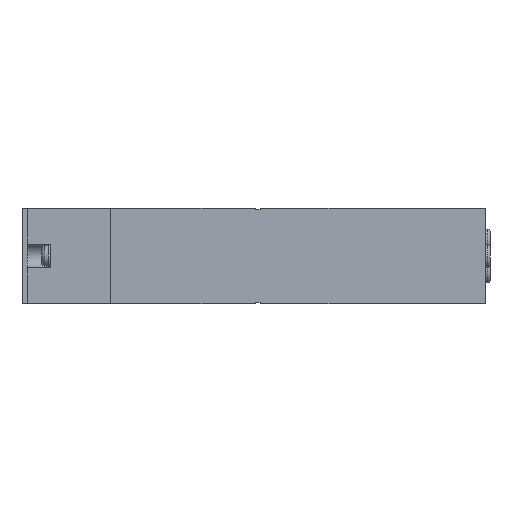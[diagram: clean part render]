
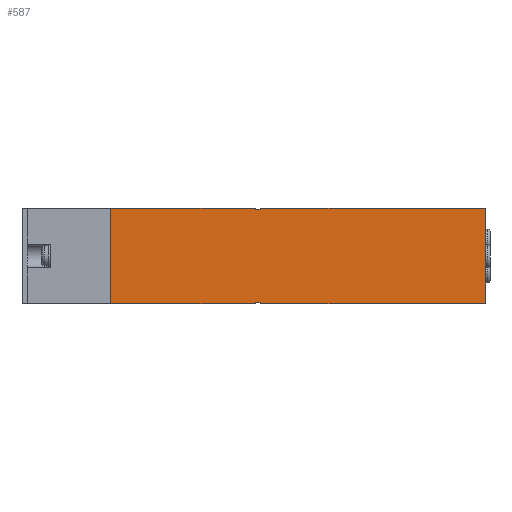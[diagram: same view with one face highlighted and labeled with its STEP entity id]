
A CAD part, front view. The second image highlights one B-rep face of the part: STEP entity #587.
In plain terms, the highlighted planar face has unit normal (0, -1, 0).
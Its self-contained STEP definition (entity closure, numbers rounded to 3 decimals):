
#587=ADVANCED_FACE('',(#1656),#1657,.F.);
#1656=FACE_OUTER_BOUND('',#3405,.T.);
#1657=PLANE('',#3406);
#3405=EDGE_LOOP('',(#6789,#6790,#6791,#6792,#6793,#6794,#6795,#6796,#6797,#6798,#6799,#6800,#6801,#6802,#6803,#6804,#6805,#6806,#6807,#6808,#6809,#6810,#6811,#6812));
#3406=AXIS2_PLACEMENT_3D('',#6813,#6814,#6815);
#6789=ORIENTED_EDGE('',*,*,#11688,.F.);
#6790=ORIENTED_EDGE('',*,*,#11689,.T.);
#6791=ORIENTED_EDGE('',*,*,#11690,.T.);
#6792=ORIENTED_EDGE('',*,*,#11691,.F.);
#6793=ORIENTED_EDGE('',*,*,#11692,.F.);
#6794=ORIENTED_EDGE('',*,*,#11693,.T.);
#6795=ORIENTED_EDGE('',*,*,#11639,.F.);
#6796=ORIENTED_EDGE('',*,*,#11694,.T.);
#6797=ORIENTED_EDGE('',*,*,#11695,.F.);
#6798=ORIENTED_EDGE('',*,*,#11696,.T.);
#6799=ORIENTED_EDGE('',*,*,#11697,.T.);
#6800=ORIENTED_EDGE('',*,*,#11698,.T.);
#6801=ORIENTED_EDGE('',*,*,#11699,.T.);
#6802=ORIENTED_EDGE('',*,*,#11700,.F.);
#6803=ORIENTED_EDGE('',*,*,#11701,.T.);
#6804=ORIENTED_EDGE('',*,*,#11702,.F.);
#6805=ORIENTED_EDGE('',*,*,#11703,.T.);
#6806=ORIENTED_EDGE('',*,*,#11704,.T.);
#6807=ORIENTED_EDGE('',*,*,#11705,.T.);
#6808=ORIENTED_EDGE('',*,*,#11706,.T.);
#6809=ORIENTED_EDGE('',*,*,#11707,.T.);
#6810=ORIENTED_EDGE('',*,*,#11708,.F.);
#6811=ORIENTED_EDGE('',*,*,#11709,.F.);
#6812=ORIENTED_EDGE('',*,*,#11649,.F.);
#6813=CARTESIAN_POINT('',(18.6,0.0,10.0));
#6814=DIRECTION('',(-0.0,1.0,0.0));
#6815=DIRECTION('',(1.0,0.0,0.0));
#11639=EDGE_CURVE('',#14245,#14241,#14247,.T.);
#11649=EDGE_CURVE('',#14264,#14267,#14268,.T.);
#11688=EDGE_CURVE('',#14337,#14264,#14338,.T.);
#11689=EDGE_CURVE('',#14337,#14339,#14340,.T.);
#11690=EDGE_CURVE('',#14339,#14341,#14342,.T.);
#11691=EDGE_CURVE('',#14343,#14341,#14344,.T.);
#11692=EDGE_CURVE('',#14345,#14343,#14346,.T.);
#11693=EDGE_CURVE('',#14345,#14241,#14347,.T.);
#11694=EDGE_CURVE('',#14245,#14348,#14349,.T.);
#11695=EDGE_CURVE('',#14350,#14348,#14351,.T.);
#11696=EDGE_CURVE('',#14350,#14352,#14353,.T.);
#11697=EDGE_CURVE('',#14352,#14354,#14355,.T.);
#11698=EDGE_CURVE('',#14354,#14356,#14357,.T.);
#11699=EDGE_CURVE('',#14356,#14358,#14359,.T.);
#11700=EDGE_CURVE('',#14360,#14358,#14361,.T.);
#11701=EDGE_CURVE('',#14360,#14362,#14363,.T.);
#11702=EDGE_CURVE('',#14364,#14362,#14365,.T.);
#11703=EDGE_CURVE('',#14364,#14366,#14367,.T.);
#11704=EDGE_CURVE('',#14366,#14368,#14369,.T.);
#11705=EDGE_CURVE('',#14368,#14370,#14371,.T.);
#11706=EDGE_CURVE('',#14370,#14372,#14373,.T.);
#11707=EDGE_CURVE('',#14372,#14374,#14375,.T.);
#11708=EDGE_CURVE('',#14376,#14374,#14377,.T.);
#11709=EDGE_CURVE('',#14267,#14376,#14378,.T.);
#14241=VERTEX_POINT('',#18313);
#14245=VERTEX_POINT('',#18319);
#14247=LINE('',#18322,#18323);
#14264=VERTEX_POINT('',#18348);
#14267=VERTEX_POINT('',#18352);
#14268=LINE('',#18353,#18354);
#14337=VERTEX_POINT('',#18457);
#14338=LINE('',#18458,#18459);
#14339=VERTEX_POINT('',#18460);
#14340=LINE('',#18461,#18462);
#14341=VERTEX_POINT('',#18463);
#14342=LINE('',#18464,#18465);
#14343=VERTEX_POINT('',#18466);
#14344=LINE('',#18467,#18468);
#14345=VERTEX_POINT('',#18469);
#14346=LINE('',#18470,#18471);
#14347=LINE('',#18472,#18473);
#14348=VERTEX_POINT('',#18474);
#14349=LINE('',#18475,#18476);
#14350=VERTEX_POINT('',#18477);
#14351=LINE('',#18478,#18479);
#14352=VERTEX_POINT('',#18480);
#14353=LINE('',#18481,#18482);
#14354=VERTEX_POINT('',#18483);
#14355=LINE('',#18484,#18485);
#14356=VERTEX_POINT('',#18486);
#14357=LINE('',#18487,#18488);
#14358=VERTEX_POINT('',#18489);
#14359=LINE('',#18490,#18491);
#14360=VERTEX_POINT('',#18492);
#14361=LINE('',#18493,#18494);
#14362=VERTEX_POINT('',#18495);
#14363=LINE('',#18496,#18497);
#14364=VERTEX_POINT('',#18498);
#14365=LINE('',#18499,#18500);
#14366=VERTEX_POINT('',#18501);
#14367=LINE('',#18502,#18503);
#14368=VERTEX_POINT('',#18504);
#14369=LINE('',#18505,#18506);
#14370=VERTEX_POINT('',#18507);
#14371=LINE('',#18508,#18509);
#14372=VERTEX_POINT('',#18510);
#14373=LINE('',#18511,#18512);
#14374=VERTEX_POINT('',#18513);
#14375=LINE('',#18514,#18515);
#14376=VERTEX_POINT('',#18516);
#14377=LINE('',#18517,#18518);
#14378=LINE('',#18519,#18520);
#18313=CARTESIAN_POINT('',(44.1,0.0,10.0));
#18319=CARTESIAN_POINT('',(35.1,0.0,10.0));
#18322=CARTESIAN_POINT('',(18.6,0.0,10.0));
#18323=VECTOR('',#22514,1.0);
#18348=CARTESIAN_POINT('',(55.1,0.0,9.9));
#18352=CARTESIAN_POINT('',(55.1,0.0,10.0));
#18353=CARTESIAN_POINT('',(55.1,0.0,9.9));
#18354=VECTOR('',#22524,1.0);
#18457=CARTESIAN_POINT('',(50.1,0.0,9.9));
#18458=CARTESIAN_POINT('',(44.1,0.0,9.9));
#18459=VECTOR('',#22571,1.0);
#18460=CARTESIAN_POINT('',(50.1,0.0,9.8));
#18461=CARTESIAN_POINT('',(50.1,0.0,10.0));
#18462=VECTOR('',#22572,1.0);
#18463=CARTESIAN_POINT('',(49.1,0.0,9.8));
#18464=CARTESIAN_POINT('',(18.6,0.0,9.8));
#18465=VECTOR('',#22573,1.0);
#18466=CARTESIAN_POINT('',(49.1,0.0,9.9));
#18467=CARTESIAN_POINT('',(49.1,0.0,10.0));
#18468=VECTOR('',#22574,1.0);
#18469=CARTESIAN_POINT('',(44.1,0.0,9.9));
#18470=CARTESIAN_POINT('',(44.1,0.0,9.9));
#18471=VECTOR('',#22575,1.0);
#18472=CARTESIAN_POINT('',(44.1,0.0,9.9));
#18473=VECTOR('',#22576,1.0);
#18474=CARTESIAN_POINT('',(35.1,0.0,9.9));
#18475=CARTESIAN_POINT('',(35.1,0.0,10.1));
#18476=VECTOR('',#22577,1.0);
#18477=CARTESIAN_POINT('',(18.6,0.0,9.9));
#18478=CARTESIAN_POINT('',(18.6,0.0,9.9));
#18479=VECTOR('',#22578,1.0);
#18480=CARTESIAN_POINT('',(18.6,0.0,-9.9));
#18481=CARTESIAN_POINT('',(18.6,0.0,10.0));
#18482=VECTOR('',#22579,1.0);
#18483=CARTESIAN_POINT('',(35.1,0.0,-9.9));
#18484=CARTESIAN_POINT('',(18.6,0.0,-9.9));
#18485=VECTOR('',#22580,1.0);
#18486=CARTESIAN_POINT('',(35.1,0.0,-10.0));
#18487=CARTESIAN_POINT('',(35.1,0.0,-9.9));
#18488=VECTOR('',#22581,1.0);
#18489=CARTESIAN_POINT('',(44.1,0.0,-10.0));
#18490=CARTESIAN_POINT('',(18.6,0.0,-10.0));
#18491=VECTOR('',#22582,1.0);
#18492=CARTESIAN_POINT('',(44.1,0.0,-9.9));
#18493=CARTESIAN_POINT('',(44.1,0.0,-9.9));
#18494=VECTOR('',#22583,1.0);
#18495=CARTESIAN_POINT('',(49.1,0.0,-9.9));
#18496=CARTESIAN_POINT('',(44.1,0.0,-9.9));
#18497=VECTOR('',#22584,1.0);
#18498=CARTESIAN_POINT('',(49.1,0.0,-9.8));
#18499=CARTESIAN_POINT('',(49.1,0.0,10.0));
#18500=VECTOR('',#22585,1.0);
#18501=CARTESIAN_POINT('',(50.1,0.0,-9.8));
#18502=CARTESIAN_POINT('',(18.6,0.0,-9.8));
#18503=VECTOR('',#22586,1.0);
#18504=CARTESIAN_POINT('',(50.1,0.0,-9.9));
#18505=CARTESIAN_POINT('',(50.1,0.0,10.0));
#18506=VECTOR('',#22587,1.0);
#18507=CARTESIAN_POINT('',(55.1,0.0,-9.9));
#18508=CARTESIAN_POINT('',(44.1,0.0,-9.9));
#18509=VECTOR('',#22588,1.0);
#18510=CARTESIAN_POINT('',(55.1,0.0,-10.0));
#18511=CARTESIAN_POINT('',(55.1,0.0,-9.9));
#18512=VECTOR('',#22589,1.0);
#18513=CARTESIAN_POINT('',(97.6,0.0,-10.0));
#18514=CARTESIAN_POINT('',(18.6,0.0,-10.0));
#18515=VECTOR('',#22590,1.0);
#18516=CARTESIAN_POINT('',(97.6,0.0,10.0));
#18517=CARTESIAN_POINT('',(97.6,0.0,10.0));
#18518=VECTOR('',#22591,1.0);
#18519=CARTESIAN_POINT('',(18.6,0.0,10.0));
#18520=VECTOR('',#22592,1.0);
#22514=DIRECTION('',(1.0,0.0,0.0));
#22524=DIRECTION('',(0.0,0.0,1.0));
#22571=DIRECTION('',(1.0,0.0,0.0));
#22572=DIRECTION('',(0.0,0.0,-1.0));
#22573=DIRECTION('',(-1.0,0.0,0.0));
#22574=DIRECTION('',(0.0,0.0,-1.0));
#22575=DIRECTION('',(1.0,0.0,0.0));
#22576=DIRECTION('',(0.0,0.0,1.0));
#22577=DIRECTION('',(0.0,0.0,-1.0));
#22578=DIRECTION('',(1.0,0.0,0.0));
#22579=DIRECTION('',(0.0,0.0,-1.0));
#22580=DIRECTION('',(1.0,0.0,0.0));
#22581=DIRECTION('',(0.0,0.0,-1.0));
#22582=DIRECTION('',(1.0,0.0,0.0));
#22583=DIRECTION('',(0.0,0.0,-1.0));
#22584=DIRECTION('',(1.0,0.0,0.0));
#22585=DIRECTION('',(0.0,0.0,-1.0));
#22586=DIRECTION('',(1.0,0.0,0.0));
#22587=DIRECTION('',(0.0,0.0,-1.0));
#22588=DIRECTION('',(1.0,0.0,0.0));
#22589=DIRECTION('',(0.0,0.0,-1.0));
#22590=DIRECTION('',(1.0,0.0,0.0));
#22591=DIRECTION('',(0.0,0.0,-1.0));
#22592=DIRECTION('',(1.0,0.0,0.0));
